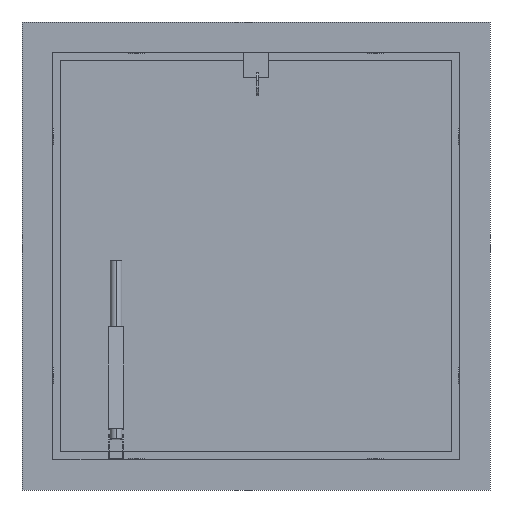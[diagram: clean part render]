
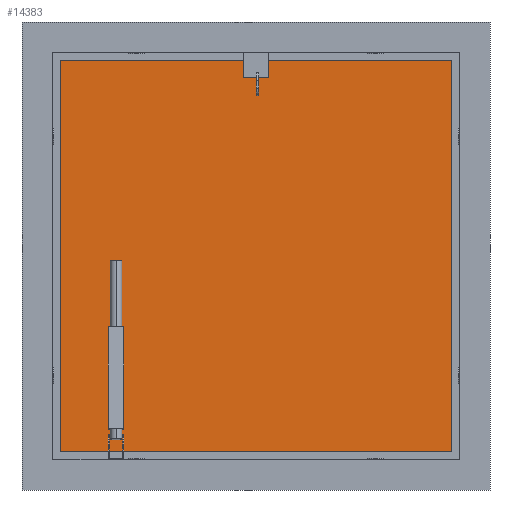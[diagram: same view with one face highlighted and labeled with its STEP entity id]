
A CAD part, front view. The second image highlights one B-rep face of the part: STEP entity #14383.
In plain terms, the highlighted planar face has unit normal (0, -1, 0).
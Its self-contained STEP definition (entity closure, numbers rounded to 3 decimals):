
#5834=DIRECTION('',(0.,0.,-1.));
#5835=VECTOR('',#5834,848.);
#5836=CARTESIAN_POINT('',(424.,75.,415.));
#5837=LINE('',#5836,#5835);
#5842=DIRECTION('',(0.,0.,-1.));
#5843=VECTOR('',#5842,30.);
#5844=CARTESIAN_POINT('',(0.,75.,345.));
#5845=LINE('',#5844,#5843);
#5846=DIRECTION('',(1.,0.,0.));
#5847=VECTOR('',#5846,5.);
#5848=CARTESIAN_POINT('',(0.,75.,315.));
#5849=LINE('',#5848,#5847);
#5850=DIRECTION('',(0.,0.,-1.));
#5851=VECTOR('',#5850,30.);
#5852=CARTESIAN_POINT('',(5.,75.,345.));
#5853=LINE('',#5852,#5851);
#5854=DIRECTION('',(1.,0.,0.));
#5855=VECTOR('',#5854,5.);
#5856=CARTESIAN_POINT('',(0.,75.,345.));
#5857=LINE('',#5856,#5855);
#5858=DIRECTION('',(-1.,0.,0.));
#5859=VECTOR('',#5858,848.);
#5860=CARTESIAN_POINT('',(424.,75.,-433.));
#5861=LINE('',#5860,#5859);
#5866=DIRECTION('',(0.,0.,1.));
#5867=VECTOR('',#5866,848.);
#5868=CARTESIAN_POINT('',(-424.,75.,-433.));
#5869=LINE('',#5868,#5867);
#5874=DIRECTION('',(1.,0.,0.));
#5875=VECTOR('',#5874,848.);
#5876=CARTESIAN_POINT('',(-424.,75.,415.));
#5877=LINE('',#5876,#5875);
#11295=CARTESIAN_POINT('',(424.,75.,415.));
#11296=CARTESIAN_POINT('',(424.,75.,-433.));
#11297=VERTEX_POINT('',#11295);
#11298=VERTEX_POINT('',#11296);
#11299=CARTESIAN_POINT('',(-424.,75.,-433.));
#11300=VERTEX_POINT('',#11299);
#11301=CARTESIAN_POINT('',(-424.,75.,415.));
#11302=VERTEX_POINT('',#11301);
#11337=CARTESIAN_POINT('',(0.,75.,345.));
#11338=CARTESIAN_POINT('',(0.,75.,315.));
#11339=VERTEX_POINT('',#11337);
#11340=VERTEX_POINT('',#11338);
#11341=CARTESIAN_POINT('',(5.,75.,345.));
#11342=CARTESIAN_POINT('',(5.,75.,315.));
#11343=VERTEX_POINT('',#11341);
#11344=VERTEX_POINT('',#11342);
#14359=CARTESIAN_POINT('',(0.,75.,0.));
#14360=DIRECTION('',(0.,1.,0.));
#14361=DIRECTION('',(0.,0.,-1.));
#14362=AXIS2_PLACEMENT_3D('',#14359,#14360,#14361);
#14363=PLANE('',#14362);
#14364=ORIENTED_EDGE('',*,*,#14349,.T.);
#14366=ORIENTED_EDGE('',*,*,#14365,.T.);
#14368=ORIENTED_EDGE('',*,*,#14367,.T.);
#14370=ORIENTED_EDGE('',*,*,#14369,.T.);
#14371=EDGE_LOOP('',(#14364,#14366,#14368,#14370));
#14372=FACE_OUTER_BOUND('',#14371,.F.);
#14374=ORIENTED_EDGE('',*,*,#14373,.T.);
#14376=ORIENTED_EDGE('',*,*,#14375,.T.);
#14378=ORIENTED_EDGE('',*,*,#14377,.F.);
#14380=ORIENTED_EDGE('',*,*,#14379,.F.);
#14381=EDGE_LOOP('',(#14374,#14376,#14378,#14380));
#14382=FACE_BOUND('',#14381,.F.);
#14349=EDGE_CURVE('',#11297,#11298,#5837,.T.);
#14365=EDGE_CURVE('',#11298,#11300,#5861,.T.);
#14367=EDGE_CURVE('',#11300,#11302,#5869,.T.);
#14369=EDGE_CURVE('',#11302,#11297,#5877,.T.);
#14373=EDGE_CURVE('',#11339,#11340,#5845,.T.);
#14375=EDGE_CURVE('',#11340,#11344,#5849,.T.);
#14377=EDGE_CURVE('',#11343,#11344,#5853,.T.);
#14379=EDGE_CURVE('',#11339,#11343,#5857,.T.);
#14383=ADVANCED_FACE('',(#14372,#14382),#14363,.F.);
